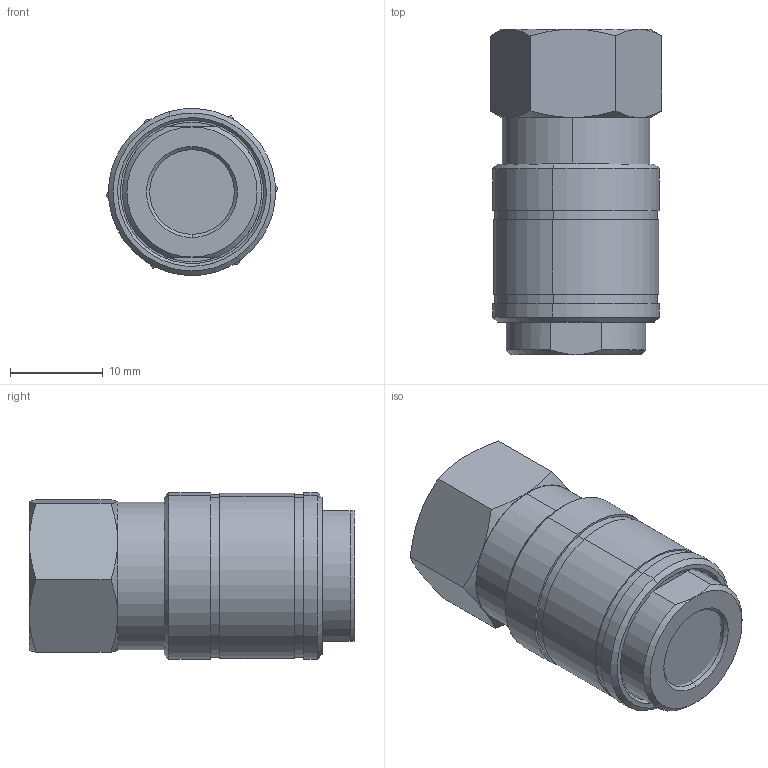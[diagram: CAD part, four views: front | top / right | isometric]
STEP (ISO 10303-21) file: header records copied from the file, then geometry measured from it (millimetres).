
FILE_DESCRIPTION (( 'STEP AP214' ), '1' );
FILE_NAME ('0018200001.step', '2012-11-19T11:01:13', ( '' ), ( '' ), 'SwSTEP 2.0', 'SolidWorks 2012', '' );
FILE_SCHEMA (( 'AUTOMOTIVE_DESIGN' ));
Length unit declared in the file: millimetre
Products named in the file (1): 0018200001
Bounding box: 18.46 x 35 x 17.96 mm (x, y, z)
Surface area: 5635.6 mm2 (no closed solid volume)
Topology: 0 solids, 4 shells, 77 faces, 176 edges, 110 vertices
Faces by surface type: cone 28, cylinder 26, plane 23
Entity records: 3244 total; most frequent: CARTESIAN_POINT 738, DIRECTION 382, ORIENTED_EDGE 332, EDGE_CURVE 176, AXIS2_PLACEMENT_3D 164, VERTEX_POINT 110, EDGE_LOOP 90, CIRCLE 86
